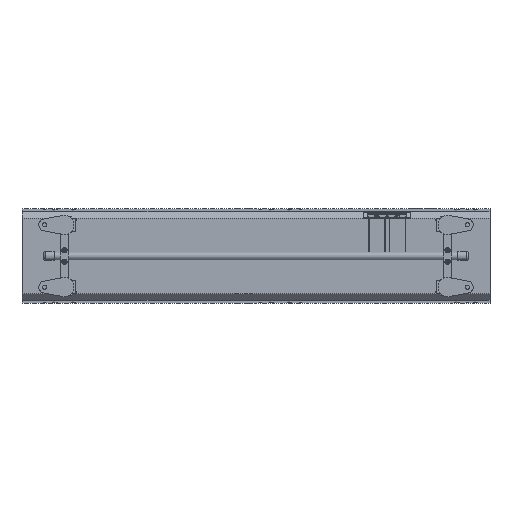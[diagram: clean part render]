
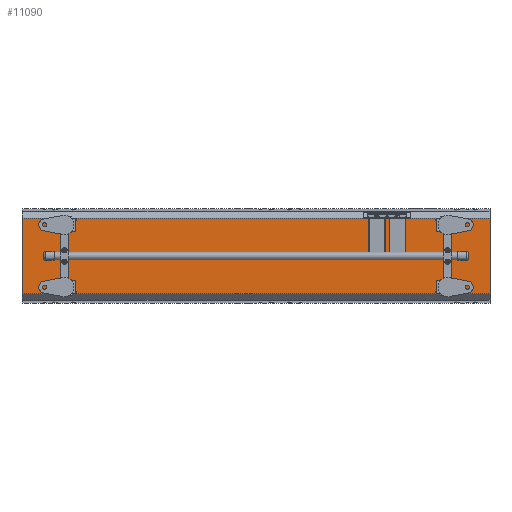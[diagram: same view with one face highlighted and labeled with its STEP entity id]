
A CAD part, front view. The second image highlights one B-rep face of the part: STEP entity #11090.
In plain terms, the highlighted planar face has unit normal (0, -1, 0).
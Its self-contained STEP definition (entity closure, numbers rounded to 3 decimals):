
#8048 = CARTESIAN_POINT ( 'NONE',  ( 1490., -215.213, -119.787 ) ) ;
#11090 = ADVANCED_FACE ( 'NONE', ( #51332 ), #64331, .F. ) ;
#11239 = CARTESIAN_POINT ( 'NONE',  ( 1842.908, -215.213, 119.787 ) ) ;
#12510 = EDGE_CURVE ( 'NONE', #31904, #27446, #58940, .T. ) ;
#14591 = AXIS2_PLACEMENT_3D ( 'NONE', #25248, #42368, #42131 ) ;
#14908 = ORIENTED_EDGE ( 'NONE', *, *, #16019, .T. ) ;
#15760 = ORIENTED_EDGE ( 'NONE', *, *, #12510, .T. ) ;
#15991 = CARTESIAN_POINT ( 'NONE',  ( 0., -215.213, 119.787 ) ) ;
#16019 = EDGE_CURVE ( 'NONE', #27446, #45102, #54086, .T. ) ;
#16988 = ORIENTED_EDGE ( 'NONE', *, *, #51692, .T. ) ;
#17248 = CARTESIAN_POINT ( 'NONE',  ( 1490., -215.213, 119.787 ) ) ;
#19326 = VECTOR ( 'NONE', #33426, 1000. ) ;
#20396 = EDGE_CURVE ( 'NONE', #40546, #45102, #30448, .T. ) ;
#20802 = DIRECTION ( 'NONE',  ( -1., 0., 0. ) ) ;
#25248 = CARTESIAN_POINT ( 'NONE',  ( 1842.908, -215.213, 119.787 ) ) ;
#27446 = VERTEX_POINT ( 'NONE', #15991 ) ;
#30448 = LINE ( 'NONE', #54081, #45069 ) ;
#31685 = VECTOR ( 'NONE', #34854, 1000. ) ;
#31904 = VERTEX_POINT ( 'NONE', #36330 ) ;
#32536 = CARTESIAN_POINT ( 'NONE',  ( 0., -215.213, -119.787 ) ) ;
#33426 = DIRECTION ( 'NONE',  ( -1., 0., 0. ) ) ;
#34854 = DIRECTION ( 'NONE',  ( 0., 0., -1. ) ) ;
#36330 = CARTESIAN_POINT ( 'NONE',  ( 1490., -215.213, 119.787 ) ) ;
#39208 = DIRECTION ( 'NONE',  ( 0., 0., 1. ) ) ;
#40546 = VERTEX_POINT ( 'NONE', #8048 ) ;
#40843 = LINE ( 'NONE', #17248, #52856 ) ;
#42131 = DIRECTION ( 'NONE',  ( 0., 0., 1. ) ) ;
#42368 = DIRECTION ( 'NONE',  ( 0., 1., 0. ) ) ;
#45069 = VECTOR ( 'NONE', #20802, 1000. ) ;
#45102 = VERTEX_POINT ( 'NONE', #32536 ) ;
#51332 = FACE_OUTER_BOUND ( 'NONE', #62779, .T. ) ;
#51692 = EDGE_CURVE ( 'NONE', #40546, #31904, #40843, .T. ) ;
#52856 = VECTOR ( 'NONE', #39208, 1000. ) ;
#54081 = CARTESIAN_POINT ( 'NONE',  ( 1490., -215.213, -119.787 ) ) ;
#54086 = LINE ( 'NONE', #56249, #31685 ) ;
#56249 = CARTESIAN_POINT ( 'NONE',  ( 0., -215.213, 119.787 ) ) ;
#58940 = LINE ( 'NONE', #11239, #19326 ) ;
#62779 = EDGE_LOOP ( 'NONE', ( #62782, #16988, #15760, #14908 ) ) ;
#62782 = ORIENTED_EDGE ( 'NONE', *, *, #20396, .F. ) ;
#64331 = PLANE ( 'NONE',  #14591 ) ;
